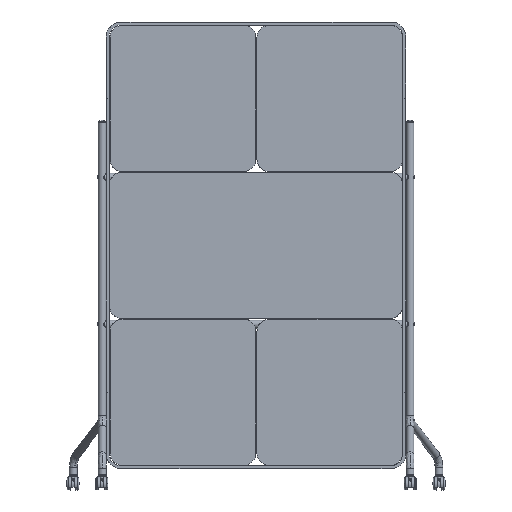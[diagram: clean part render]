
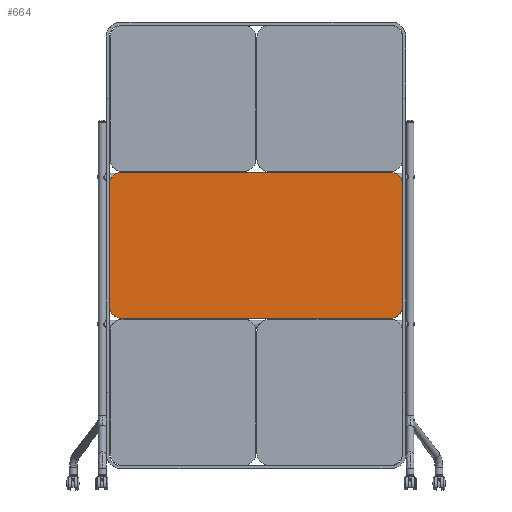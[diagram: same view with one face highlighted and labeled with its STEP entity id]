
A CAD part, front view. The second image highlights one B-rep face of the part: STEP entity #664.
In plain terms, the highlighted planar face has unit normal (0, -1, 0).
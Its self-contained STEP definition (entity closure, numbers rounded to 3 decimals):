
#664=ADVANCED_FACE('',(#1382),#11505,.T.);
#1382=FACE_OUTER_BOUND('',#2170,.T.);
#2170=EDGE_LOOP('',(#4272,#4273));
#4272=ORIENTED_EDGE('',*,*,#6820,.T.);
#4273=ORIENTED_EDGE('',*,*,#6818,.T.);
#6818=EDGE_CURVE('',#10674,#10673,#7738,.T.);
#6820=EDGE_CURVE('',#10673,#10674,#7739,.T.);
#7738=(
BOUNDED_CURVE()
B_SPLINE_CURVE(2,(#25696,#25697,#25698,#25699,#25700,#25701,#25702,#25703,
#25704),.UNSPECIFIED.,.F.,.F.)
B_SPLINE_CURVE_WITH_KNOTS((3,2,2,2,3),(-1792.,-694.,
-596.,-98.,0.),.UNSPECIFIED.)
CURVE()
GEOMETRIC_REPRESENTATION_ITEM()
RATIONAL_B_SPLINE_CURVE((1.,1.,1.,0.707,1.,1.,1.,0.707,
1.))
REPRESENTATION_ITEM('')
);
#7739=(
BOUNDED_CURVE()
B_SPLINE_CURVE(2,(#25707,#25708,#25709,#25710,#25711,#25712,#25713,#25714,
#25715),.UNSPECIFIED.,.F.,.F.)
B_SPLINE_CURVE_WITH_KNOTS((3,2,2,2,3),(-1792.,-694.,
-596.,-98.,0.),.UNSPECIFIED.)
CURVE()
GEOMETRIC_REPRESENTATION_ITEM()
RATIONAL_B_SPLINE_CURVE((1.,1.,1.,0.707,1.,1.,1.,0.707,
1.))
REPRESENTATION_ITEM('')
);
#10673=VERTEX_POINT('',#25603);
#10674=VERTEX_POINT('',#25604);
#11505=PLANE('',#13838);
#13838=AXIS2_PLACEMENT_3D('',#25540,#15528,$);
#15528=DIRECTION('',(0.,-1.,0.));
#25540=CARTESIAN_POINT('',(357.72,0.,-1316.72));
#25603=CARTESIAN_POINT('',(-298.,0.,-50.));
#25604=CARTESIAN_POINT('',(298.,0.,-1148.));
#25696=CARTESIAN_POINT('',(298.,0.,-1148.));
#25697=CARTESIAN_POINT('',(298.,0.,-599.));
#25698=CARTESIAN_POINT('',(298.,0.,-50.));
#25699=CARTESIAN_POINT('',(298.,0.,-1.));
#25700=CARTESIAN_POINT('',(249.,0.,-1.));
#25701=CARTESIAN_POINT('',(0.,0.,-1.));
#25702=CARTESIAN_POINT('',(-249.,0.,-1.));
#25703=CARTESIAN_POINT('',(-298.,0.,-1.));
#25704=CARTESIAN_POINT('',(-298.,0.,-50.));
#25707=CARTESIAN_POINT('',(-298.,0.,-50.));
#25708=CARTESIAN_POINT('',(-298.,0.,-599.));
#25709=CARTESIAN_POINT('',(-298.,0.,-1148.));
#25710=CARTESIAN_POINT('',(-298.,0.,-1197.));
#25711=CARTESIAN_POINT('',(-249.,0.,-1197.));
#25712=CARTESIAN_POINT('',(0.,0.,-1197.));
#25713=CARTESIAN_POINT('',(249.,0.,-1197.));
#25714=CARTESIAN_POINT('',(298.,0.,-1197.));
#25715=CARTESIAN_POINT('',(298.,0.,-1148.));
